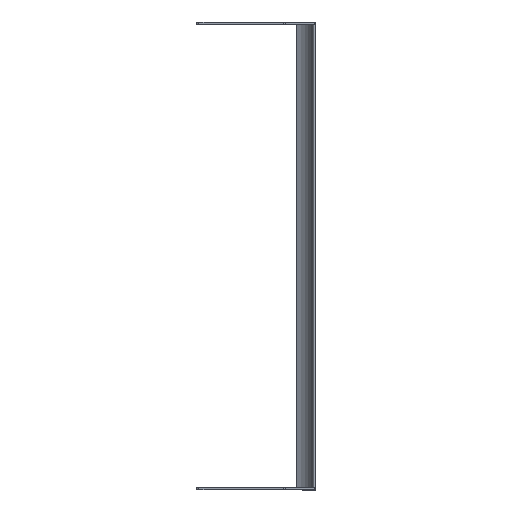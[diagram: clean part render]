
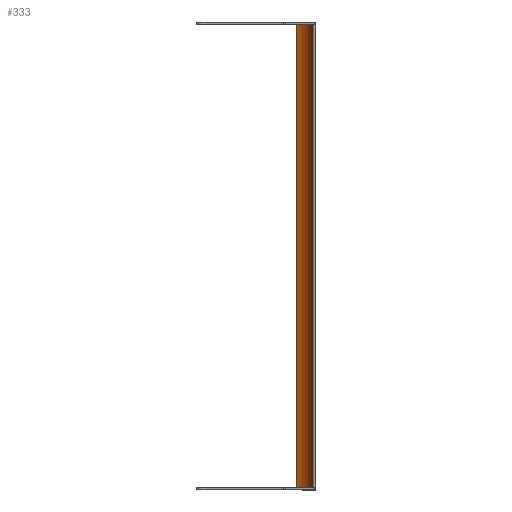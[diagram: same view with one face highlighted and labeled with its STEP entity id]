
A CAD part, front view. The second image highlights one B-rep face of the part: STEP entity #333.
In plain terms, the highlighted cylindrical face has radius 40.64 mm (diameter 81.28 mm), a partial arc.
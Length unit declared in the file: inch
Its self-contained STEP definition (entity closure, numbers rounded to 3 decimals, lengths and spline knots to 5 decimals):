
#40=CARTESIAN_POINT('',(-1.52,1.63,-12.118));
#41=DIRECTION('',(0.,0.,-1.));
#42=DIRECTION('',(0.914,-0.405,0.));
#43=AXIS2_PLACEMENT_3D('',#40,#41,#42);
#87=CARTESIAN_POINT('',(-1.52,1.63,12.118));
#88=DIRECTION('',(0.,0.,-1.));
#89=DIRECTION('',(0.914,-0.405,0.));
#90=AXIS2_PLACEMENT_3D('',#87,#88,#89);
#118=DIRECTION('',(0.,0.,1.));
#119=VECTOR('',#118,24.236);
#120=CARTESIAN_POINT('',(-1.00032,0.11675,-12.118));
#121=LINE('',#120,#119);
#122=DIRECTION('',(0.,0.,1.));
#123=VECTOR('',#122,24.236);
#124=CARTESIAN_POINT('',(-0.05742,0.98126,-12.118));
#125=LINE('',#124,#123);
#154=CARTESIAN_POINT('',(-0.05742,0.98126,-12.118));
#155=VERTEX_POINT('',#154);
#156=CARTESIAN_POINT('',(-1.00032,0.11675,-12.118));
#157=VERTEX_POINT('',#156);
#174=CARTESIAN_POINT('',(-0.05742,0.98126,12.118));
#175=VERTEX_POINT('',#174);
#176=CARTESIAN_POINT('',(-1.00032,0.11675,12.118));
#177=VERTEX_POINT('',#176);
#321=CARTESIAN_POINT('',(-1.52,1.63,-12.118));
#322=DIRECTION('',(0.,0.,1.));
#323=DIRECTION('',(1.,0.,0.));
#324=AXIS2_PLACEMENT_3D('',#321,#322,#323);
#325=CYLINDRICAL_SURFACE('',#324,1.6);
#326=ORIENTED_EDGE('',*,*,#191,.F.);
#328=ORIENTED_EDGE('',*,*,#327,.T.);
#329=ORIENTED_EDGE('',*,*,#247,.T.);
#330=ORIENTED_EDGE('',*,*,#314,.F.);
#331=EDGE_LOOP('',(#326,#328,#329,#330));
#332=FACE_OUTER_BOUND('',#331,.F.);
#44=CIRCLE('',#43,1.6);
#91=CIRCLE('',#90,1.6);
#191=EDGE_CURVE('',#155,#157,#44,.T.);
#247=EDGE_CURVE('',#175,#177,#91,.T.);
#314=EDGE_CURVE('',#157,#177,#121,.T.);
#327=EDGE_CURVE('',#155,#175,#125,.T.);
#333=ADVANCED_FACE('',(#332),#325,.F.);
